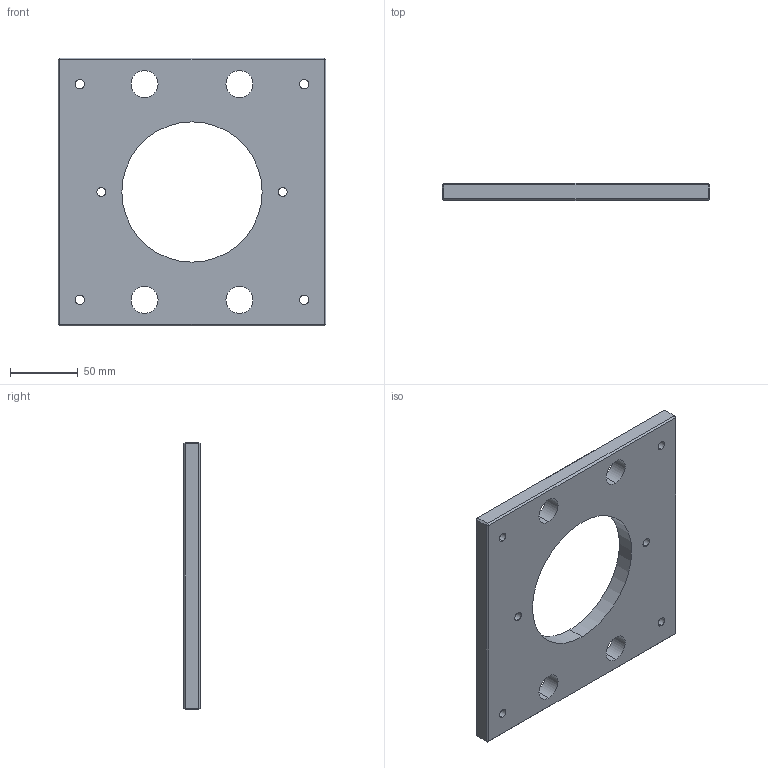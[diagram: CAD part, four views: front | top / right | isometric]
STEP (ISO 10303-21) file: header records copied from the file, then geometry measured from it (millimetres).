
FILE_DESCRIPTION (( 'STEP AP214' ), '1' );
FILE_NAME ('ME-0619-CH-0808.STEP', '2020-02-12T07:31:54', ( '' ), ( '' ), 'SwSTEP 2.0', 'SolidWorks 2018', '' );
FILE_SCHEMA (( 'AUTOMOTIVE_DESIGN' ));
Length unit declared in the file: inch
Products named in the file (1): ME-0619-CH-0808
Bounding box: 196.85 x 12.7 x 196.85 mm (x, y, z)
Volume: 364886.9 mm3; surface area: 75415.2 mm2
Topology: 1 solids, 1 shells, 60 faces, 138 edges, 80 vertices
Faces by surface type: plane 26, cylinder 22, cone 12
Entity records: 1754 total; most frequent: DIRECTION 316, CARTESIAN_POINT 279, ORIENTED_EDGE 276, EDGE_CURVE 138, AXIS2_PLACEMENT_3D 117, EDGE_LOOP 82, LINE 82, VECTOR 82
